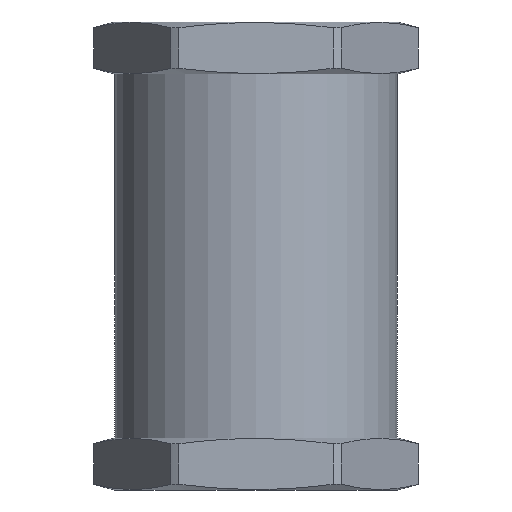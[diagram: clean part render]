
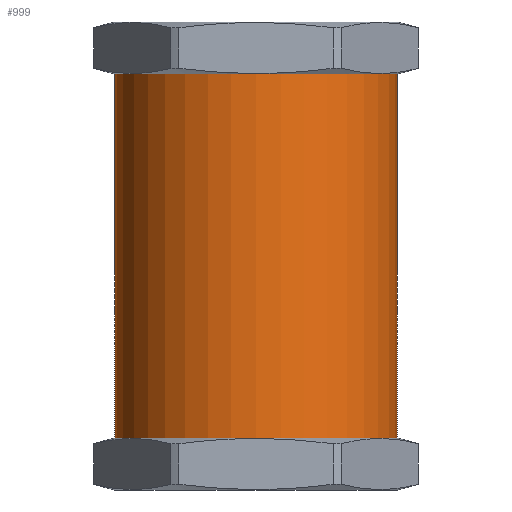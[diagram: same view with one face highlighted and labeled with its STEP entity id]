
A CAD part, front view. The second image highlights one B-rep face of the part: STEP entity #999.
In plain terms, the highlighted cylindrical face has radius 34.48 mm (diameter 68.961 mm), a partial arc.
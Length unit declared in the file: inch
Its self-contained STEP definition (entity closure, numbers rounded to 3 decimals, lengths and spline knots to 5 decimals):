
#47 = CARTESIAN_POINT ( 'NONE',  ( 1.3575, 0., 4. ) ) ;
#54 = CARTESIAN_POINT ( 'NONE',  ( -1.3575, 0., 4. ) ) ;
#95 = EDGE_CURVE ( 'NONE', #1443, #1473, #781, .T. ) ;
#201 = VECTOR ( 'NONE', #783, 39.37008 ) ;
#244 = CIRCLE ( 'NONE', #247, 1.3575 ) ;
#246 = VECTOR ( 'NONE', #1110, 39.37008 ) ;
#247 = AXIS2_PLACEMENT_3D ( 'NONE', #1128, #1129, #1130 ) ;
#248 = AXIS2_PLACEMENT_3D ( 'NONE', #1095, #1096, #1097 ) ;
#250 = CIRCLE ( 'NONE', #248, 1.3575 ) ;
#329 = AXIS2_PLACEMENT_3D ( 'NONE', #905, #445, #446 ) ;
#412 = CARTESIAN_POINT ( 'NONE',  ( 1.3575, 0., 0.5 ) ) ;
#414 = CARTESIAN_POINT ( 'NONE',  ( -1.3575, 0., 0.5 ) ) ;
#445 = DIRECTION ( 'NONE',  ( 0., 0., -1. ) ) ;
#446 = DIRECTION ( 'NONE',  ( -1., 0., 0. ) ) ;
#528 = ORIENTED_EDGE ( 'NONE', *, *, #1062, .T. ) ;
#529 = ORIENTED_EDGE ( 'NONE', *, *, #95, .F. ) ;
#611 = ORIENTED_EDGE ( 'NONE', *, *, #1068, .F. ) ;
#612 = ORIENTED_EDGE ( 'NONE', *, *, #1065, .T. ) ;
#781 = LINE ( 'NONE', #782, #201 ) ;
#782 = CARTESIAN_POINT ( 'NONE',  ( 1.3575, 0., 0. ) ) ;
#783 = DIRECTION ( 'NONE',  ( 0., 0., -1. ) ) ;
#905 = CARTESIAN_POINT ( 'NONE',  ( 0., 0., 0. ) ) ;
#906 = CYLINDRICAL_SURFACE ( 'NONE', #329, 1.3575 ) ;
#999 = ADVANCED_FACE ( 'NONE', ( #1482 ), #906, .T. ) ;
#1062 = EDGE_CURVE ( 'NONE', #1443, #1452, #250, .T. ) ;
#1065 = EDGE_CURVE ( 'NONE', #1452, #1475, #1094, .T. ) ;
#1068 = EDGE_CURVE ( 'NONE', #1473, #1475, #244, .T. ) ;
#1085 = CARTESIAN_POINT ( 'NONE',  ( -1.3575, 0., 0. ) ) ;
#1094 = LINE ( 'NONE', #1085, #246 ) ;
#1095 = CARTESIAN_POINT ( 'NONE',  ( 0., 0., 4. ) ) ;
#1096 = DIRECTION ( 'NONE',  ( 0., 0., -1. ) ) ;
#1097 = DIRECTION ( 'NONE',  ( -1., 0., 0. ) ) ;
#1110 = DIRECTION ( 'NONE',  ( 0., 0., -1. ) ) ;
#1128 = CARTESIAN_POINT ( 'NONE',  ( 0., 0., 0.5 ) ) ;
#1129 = DIRECTION ( 'NONE',  ( 0., 0., -1. ) ) ;
#1130 = DIRECTION ( 'NONE',  ( -1., 0., 0. ) ) ;
#1349 = EDGE_LOOP ( 'NONE', ( #529, #528, #612, #611 ) ) ;
#1443 = VERTEX_POINT ( 'NONE', #47 ) ;
#1452 = VERTEX_POINT ( 'NONE', #54 ) ;
#1473 = VERTEX_POINT ( 'NONE', #412 ) ;
#1475 = VERTEX_POINT ( 'NONE', #414 ) ;
#1482 = FACE_OUTER_BOUND ( 'NONE', #1349, .T. ) ;
